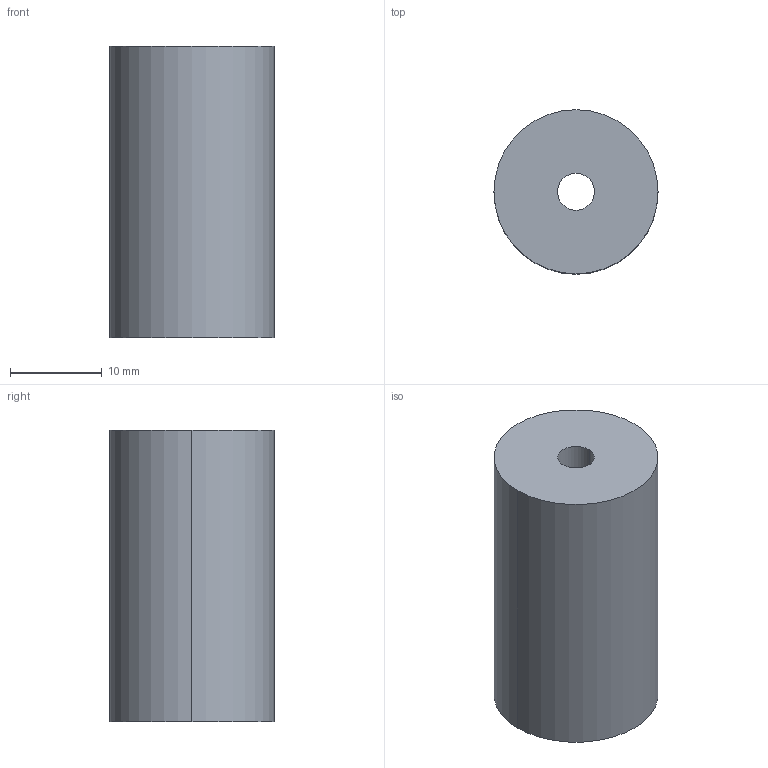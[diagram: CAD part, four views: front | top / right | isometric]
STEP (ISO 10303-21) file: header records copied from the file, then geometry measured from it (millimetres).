
FILE_DESCRIPTION (( 'STEP AP203' ), '1' );
FILE_NAME ('FDPCK-.5PULTRUD-ENDTHRD-10-32.step', '2019-09-11T18:21:10', ( 'ydmin' ), ( '' ), 'SwSTEP 2.0', 'SolidWorks 2017', '' );
FILE_SCHEMA (( 'CONFIG_CONTROL_DESIGN' ));
Length unit declared in the file: inch
Products named in the file (1): FDPCK-.5PULTRUD-ENDTHRD-10-32
Bounding box: 17.91 x 17.91 x 31.75 mm (x, y, z)
Volume: 5130.7 mm3; surface area: 3194.9 mm2
Topology: 1 solids, 1 shells, 10 faces, 24 edges, 16 vertices
Faces by surface type: cylinder 6, cone 2, plane 2
Entity records: 387 total; most frequent: DIRECTION 62, CARTESIAN_POINT 51, ORIENTED_EDGE 48, AXIS2_PLACEMENT_3D 27, EDGE_CURVE 24, VERTEX_POINT 16, CIRCLE 16, EDGE_LOOP 12
